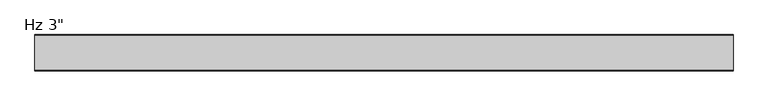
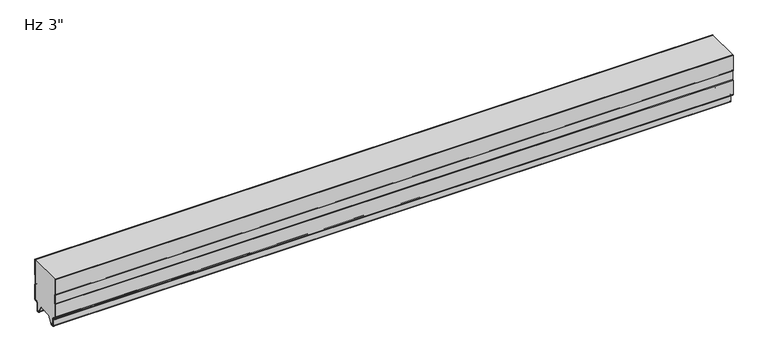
"""IFC4 building model written with IfcOpenShell, lengths in millimetres: plate geometry."""

from ifc_helpers import new_model, si_unit, frame, origin, place, context, project, spatial, polyline, circle_curve, source, transform, mapped, element, save
from ifc_brep_helpers import plane_surface, cylinder_surface, revolved_surface, advanced_brep


def plate_06875e41(model_context):
    return source(origin(), model_context, "Body", "AdvancedBrep", [
        advanced_brep(
        [(-730.0, -1.0, 59.9218553), (-730.0, -1.0, 94.95), (-730.0, 0.0, 94.95), (-730.0, 0.0, 59.479416), (-730.0, -1.1911595, 58.4068912), (-730.0, -1.1911595, 39.5087751), (-730.0, 0.0, 38.4362503), (-730.0, 0.0, 5.8272193), (-730.0, -2.9772904, 2.8499526), (-730.0, -5.2691742, 2.8499526), (-730.0, -8.2464427, -0.1273159), (-730.0, -8.2464427, -15.7237419), (-730.0, -9.8343193, -17.3116185), (-730.0, -12.905868, -17.3116185), (-730.0, -14.4937445, -15.7237419), (-730.0, -14.4937445, -13.3687064), (-730.0, -13.4937445, -13.3687064), (-730.0, -13.4937445, -15.7237419), (-730.0, -12.905868, -16.3116185), (-730.0, -9.8343193, -16.3116185), (-730.0, -9.2464427, -15.7237419), (-730.0, -9.2464427, -0.1273159), (-730.0, -5.2691742, 3.8499526), (-730.0, -2.9772904, 3.8499526), (-730.0, -1.0000218, 5.82722), (-730.0, -1.0, 37.993811), (-730.0, -2.1911595, 39.0663358), (-730.0, -2.1911595, 58.8493305), (730.0, 0.0, 59.479416), (730.0, 0.0, 94.95), (730.0, -1.0, 94.95), (730.0, -1.0, 59.9218553), (730.0, -2.1911595, 58.8493305), (730.0, -2.1911595, 39.0663358), (730.0, -1.0, 37.993811), (730.0, -1.0, 5.82722), (730.0, -2.9772904, 3.8499526), (730.0, -5.2691742, 3.8499526), (730.0, -9.2464427, -0.1273159), (730.0, -9.2464427, -15.7237419), (730.0, -9.8343193, -16.3116185), (730.0, -12.905868, -16.3116185), (730.0, -13.4937445, -15.7237419), (730.0, -13.4937445, -13.3687064), (730.0, -14.4937445, -13.3687064), (730.0, -14.4937445, -15.7237419), (730.0, -12.905868, -17.3116185), (730.0, -9.8343193, -17.3116185), (730.0, -8.2464427, -15.7237419), (730.0, -8.2464427, -0.1273159), (730.0, -5.2691742, 2.8499526), (730.0, -2.9772904, 2.8499526), (730.0, -2.18e-05, 5.8272193), (730.0, 0.0, 38.4362503), (730.0, -1.1911595, 39.5087751), (730.0, -1.1911595, 58.4068912)],
        [
            (0, 1),
            (1, 2),
            (2, 3),
            (3, 4),
            (4, 5),
            (5, 6),
            (6, 7),
            (7, 8, circle_curve(frame((-730.0, -2.9772904, 5.8272211), z_axis=(-1.0, 0.0, 0.0), x_axis=(0.0, 1.0, 0.0)), 2.9772685)),
            (8, 9),
            (9, 10, circle_curve(frame((-730.0, -5.2691742, -0.1273159), z_axis=(1.0, 0.0, 0.0), x_axis=(0.0, 1.0, 0.0)), 2.9772685)),
            (10, 11),
            (11, 12, circle_curve(frame((-730.0, -9.8343193, -15.7237419), z_axis=(-1.0, 0.0, 0.0), x_axis=(0.0, 1.0, 0.0)), 1.5878765)),
            (12, 13),
            (13, 14, circle_curve(frame((-730.0, -12.905868, -15.7237419), z_axis=(-1.0, 0.0, 0.0), x_axis=(0.0, 1.0, 0.0)), 1.5878765)),
            (14, 15),
            (15, 16),
            (16, 17),
            (17, 18, circle_curve(frame((-730.0, -12.905868, -15.7237419), z_axis=(1.0, 0.0, 0.0), x_axis=(0.0, 1.0, 0.0)), 0.5878765)),
            (18, 19),
            (19, 20, circle_curve(frame((-730.0, -9.8343193, -15.7237419), z_axis=(1.0, 0.0, 0.0), x_axis=(0.0, 1.0, 0.0)), 0.5878765)),
            (20, 21),
            (21, 22, circle_curve(frame((-730.0, -5.2691742, -0.1273159), z_axis=(-1.0, 0.0, 0.0), x_axis=(0.0, 1.0, 0.0)), 3.9772685)),
            (22, 23),
            (23, 24, circle_curve(frame((-730.0, -2.9772904, 5.8272212), z_axis=(1.0, 0.0, 0.0), x_axis=(0.0, 1.0, 0.0)), 1.9772685)),
            (24, 25),
            (25, 26),
            (26, 27),
            (27, 0),
            (28, 29),
            (29, 30),
            (30, 31),
            (31, 32),
            (32, 33),
            (33, 34),
            (34, 35),
            (35, 36, circle_curve(frame((730.0, -2.9772904, 5.8272212), z_axis=(-1.0, 0.0, 0.0), x_axis=(0.0, 1.0, 0.0)), 1.9772685)),
            (36, 37),
            (37, 38, circle_curve(frame((730.0, -5.2691742, -0.1273159), z_axis=(1.0, 0.0, 0.0), x_axis=(0.0, 1.0, 0.0)), 3.9772685)),
            (38, 39),
            (39, 40, circle_curve(frame((730.0, -9.8343193, -15.7237419), z_axis=(-1.0, 0.0, 0.0), x_axis=(0.0, 1.0, 0.0)), 0.5878765)),
            (40, 41),
            (41, 42, circle_curve(frame((730.0, -12.905868, -15.7237419), z_axis=(-1.0, 0.0, 0.0), x_axis=(0.0, 1.0, 0.0)), 0.5878765)),
            (42, 43),
            (43, 44),
            (44, 45),
            (45, 46, circle_curve(frame((730.0, -12.905868, -15.7237419), z_axis=(1.0, 0.0, 0.0), x_axis=(0.0, 1.0, 0.0)), 1.5878765)),
            (46, 47),
            (47, 48, circle_curve(frame((730.0, -9.8343193, -15.7237419), z_axis=(1.0, 0.0, 0.0), x_axis=(0.0, 1.0, 0.0)), 1.5878765)),
            (48, 49),
            (49, 50, circle_curve(frame((730.0, -5.2691742, -0.1273159), z_axis=(-1.0, 0.0, 0.0), x_axis=(0.0, 1.0, 0.0)), 2.9772685)),
            (50, 51),
            (51, 52, circle_curve(frame((730.0, -2.9772904, 5.8272211), z_axis=(1.0, 0.0, 0.0), x_axis=(0.0, 1.0, 0.0)), 2.9772685)),
            (52, 53),
            (53, 54),
            (54, 55),
            (55, 28),
            (30, 1),
            (0, 31),
            (27, 32),
            (26, 33),
            (25, 34),
            (24, 35),
            (23, 36),
            (22, 37),
            (21, 38),
            (20, 39),
            (19, 40),
            (18, 41),
            (17, 42),
            (16, 43),
            (15, 44),
            (14, 45),
            (13, 46),
            (12, 47),
            (11, 48),
            (10, 49),
            (9, 50),
            (8, 51),
            (7, 52),
            (6, 53),
            (5, 54),
            (4, 55),
            (3, 28),
            (2, 29),
        ],
        [
            plane_surface(frame((-730.0, 0.0, 576.2625), z_axis=(-1.0, 0.0, 0.0), x_axis=(0.0, 1.0, 0.0))),
            plane_surface(frame((730.0, 0.0, 576.2625), z_axis=(1.0, 0.0, 0.0), x_axis=(0.0, 1.0, 0.0))),
            plane_surface(frame((-730.0, -1.0, 113.6164312), z_axis=(0.0, -1.0, 0.0), x_axis=(1.0, 0.0, 0.0))),
            plane_surface(frame((-730.0, -1.0, 59.9218553), z_axis=(0.0, -0.6691306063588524, 0.7431448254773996), x_axis=(1.0, 0.0, 0.0))),
            plane_surface(frame((-730.0, -2.1911595, 58.8493305), z_axis=(0.0, -1.0, 0.0), x_axis=(1.0, 0.0, 0.0))),
            plane_surface(frame((-730.0, -2.1911595, 39.0663358), z_axis=(0.0, -0.6691306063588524, -0.7431448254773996), x_axis=(1.0, 0.0, 0.0))),
            plane_surface(frame((-730.0, -1.0, 37.993811), z_axis=(0.0, -1.0, 0.0), x_axis=(1.0, 0.0, 0.0))),
            revolved_surface(polyline([(730.0, -1.0000218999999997, 5.8272212), (-730.0, -1.0000218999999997, 5.8272212)]), (-730.0, -2.9772904, 5.8272212), (1.0, 0.0, 0.0)),
            plane_surface(frame((-730.0, -2.9772904, 3.8499526), z_axis=(0.0, 0.0, 1.0), x_axis=(1.0, 0.0, 0.0))),
            cylinder_surface(frame((-730.0, -5.2691742, -0.1273159), z_axis=(-1.0, 0.0, 0.0), x_axis=(0.0, 1.0, 0.0)), 3.9772685),
            plane_surface(frame((-730.0, -9.2464427, -0.1273159), z_axis=(0.0, -1.0, 0.0), x_axis=(1.0, 0.0, 0.0))),
            revolved_surface(polyline([(730.0, -9.2464428, -15.7237419), (-730.0, -9.2464428, -15.7237419)]), (-730.0, -9.8343193, -15.7237419), (1.0, 0.0, 0.0)),
            plane_surface(frame((-730.0, -9.8343193, -16.3116185), z_axis=(0.0, 0.0, 1.0), x_axis=(1.0, 0.0, 0.0))),
            revolved_surface(polyline([(730.0, -12.3179915, -15.7237419), (-730.0, -12.3179915, -15.7237419)]), (-730.0, -12.905868, -15.7237419), (1.0, 0.0, 0.0)),
            plane_surface(frame((-730.0, -13.4937445, -15.7237419), z_axis=(0.0, 1.0, 0.0), x_axis=(1.0, 0.0, 0.0))),
            plane_surface(frame((-730.0, -13.4937445, -13.3687064), z_axis=(0.0, 0.0, 1.0), x_axis=(1.0, 0.0, 0.0))),
            plane_surface(frame((-730.0, -14.4937445, -13.3687064), z_axis=(0.0, -1.0, 0.0), x_axis=(1.0, 0.0, 0.0))),
            cylinder_surface(frame((-730.0, -12.905868, -15.7237419), z_axis=(-1.0, 0.0, 0.0), x_axis=(0.0, 1.0, 0.0)), 1.5878765),
            plane_surface(frame((-730.0, -12.905868, -17.3116185), z_axis=(0.0, 0.0, -1.0), x_axis=(1.0, 0.0, 0.0))),
            cylinder_surface(frame((-730.0, -9.8343193, -15.7237419), z_axis=(-1.0, 0.0, 0.0), x_axis=(0.0, 1.0, 0.0)), 1.5878765),
            plane_surface(frame((-730.0, -8.2464427, -15.7237419), z_axis=(0.0, 1.0, 0.0), x_axis=(1.0, 0.0, 0.0))),
            revolved_surface(polyline([(730.0, -2.2919057, -0.1273159), (-730.0, -2.2919057, -0.1273159)]), (-730.0, -5.2691742, -0.1273159), (1.0, 0.0, 0.0)),
            plane_surface(frame((-730.0, -5.2691742, 2.8499526), z_axis=(0.0, 0.0, -1.0), x_axis=(1.0, 0.0, 0.0))),
            cylinder_surface(frame((-730.0, -2.9772904, 5.8272211), z_axis=(-1.0, 0.0, 0.0), x_axis=(0.0, 1.0, 0.0)), 2.9772685),
            plane_surface(frame((-730.0, 0.0, 5.8272193), z_axis=(0.0, 1.0, 0.0), x_axis=(1.0, 0.0, 0.0))),
            plane_surface(frame((-730.0, 0.0, 38.4362503), z_axis=(0.0, 0.6691306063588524, 0.7431448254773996), x_axis=(1.0, 0.0, 0.0))),
            plane_surface(frame((-730.0, -1.1911595, 39.5087751), z_axis=(0.0, 1.0, 0.0), x_axis=(1.0, 0.0, 0.0))),
            plane_surface(frame((-730.0, -1.1911595, 58.4068912), z_axis=(0.0, 0.6691306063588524, -0.7431448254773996), x_axis=(1.0, 0.0, 0.0))),
            plane_surface(frame((-730.0, 0.0, 59.479416), z_axis=(0.0, 1.0, 0.0), x_axis=(1.0, 0.0, 0.0))),
            plane_surface(frame((730.0, 10.0, 94.95), z_axis=(0.0, 0.0, 1.0), x_axis=(-1.0, 0.0, 0.0))),
        ],
        [
            (0, [[1, 2, 3, 4, 5, 6, 7, 8, 9, 10, 11, 12, 13, 14, 15, 16, 17, 18, 19, 20, 21, 22, 23, 24, 25, 26, 27, 28]]),
            (1, [[29, 30, 31, 32, 33, 34, 35, 36, 37, 38, 39, 40, 41, 42, 43, 44, 45, 46, 47, 48, 49, 50, 51, 52, 53, 54, 55, 56]]),
            (2, [[-31, 57, -1, 58]]),
            (3, [[59, -32, -58, -28]]),
            (4, [[60, -33, -59, -27]]),
            (5, [[61, -34, -60, -26]]),
            (6, [[62, -35, -61, -25]]),
            (7, [[63, -36, -62, -24]]),
            (8, [[64, -37, -63, -23]]),
            (9, [[65, -38, -64, -22]]),
            (10, [[66, -39, -65, -21]]),
            (11, [[67, -40, -66, -20]]),
            (12, [[68, -41, -67, -19]]),
            (13, [[69, -42, -68, -18]]),
            (14, [[70, -43, -69, -17]]),
            (15, [[71, -44, -70, -16]]),
            (16, [[72, -45, -71, -15]]),
            (17, [[73, -46, -72, -14]]),
            (18, [[74, -47, -73, -13]]),
            (19, [[75, -48, -74, -12]]),
            (20, [[76, -49, -75, -11]]),
            (21, [[77, -50, -76, -10]]),
            (22, [[78, -51, -77, -9]]),
            (23, [[79, -52, -78, -8]]),
            (24, [[80, -53, -79, -7]]),
            (25, [[81, -54, -80, -6]]),
            (26, [[82, -55, -81, -5]]),
            (27, [[83, -56, -82, -4]]),
            (28, [[-3, 84, -29, -83]]),
            (29, [[-57, -30, -84, -2]]),
        ],
    ),
        advanced_brep(
        [(-730.0, -76.2, 59.479416), (-730.0, -76.2, 94.95), (-730.0, -75.2, 94.95), (-730.0, -75.2, 59.9218553), (-730.0, -74.0088405, 58.8493305), (-730.0, -74.0088405, 39.0663358), (-730.0, -75.2, 37.993811), (-730.0, -75.2, 5.82722), (-730.0, -73.2227096, 3.8499526), (-730.0, -70.9308258, 3.8499526), (-730.0, -66.9535573, -0.1273159), (-730.0, -66.9535573, -15.7237419), (-730.0, -66.3656807, -16.3116185), (-730.0, -63.294132, -16.3116185), (-730.0, -62.7062555, -15.7237419), (-730.0, -62.7062555, -13.3687064), (-730.0, -61.7062555, -13.3687064), (-730.0, -61.7062555, -15.7237419), (-730.0, -63.294132, -17.3116185), (-730.0, -66.3656807, -17.3116185), (-730.0, -67.9535573, -15.7237419), (-730.0, -67.9535573, -0.1273159), (-730.0, -70.9308258, 2.8499526), (-730.0, -73.2227096, 2.8499526), (-730.0, -76.1999782, 5.8272193), (-730.0, -76.2, 38.4362503), (-730.0, -75.0088405, 39.5087751), (-730.0, -75.0088405, 58.4068912), (730.0, -75.2, 59.9218553), (730.0, -75.2, 94.95), (730.0, -76.2, 94.95), (730.0, -76.2, 59.479416), (730.0, -75.0088405, 58.4068912), (730.0, -75.0088405, 39.5087751), (730.0, -76.2, 38.4362503), (730.0, -76.2, 5.8272193), (730.0, -73.2227096, 2.8499526), (730.0, -70.9308258, 2.8499526), (730.0, -67.9535573, -0.1273159), (730.0, -67.9535573, -15.7237419), (730.0, -66.3656807, -17.3116185), (730.0, -63.294132, -17.3116185), (730.0, -61.7062555, -15.7237419), (730.0, -61.7062555, -13.3687064), (730.0, -62.7062555, -13.3687064), (730.0, -62.7062555, -15.7237419), (730.0, -63.294132, -16.3116185), (730.0, -66.3656807, -16.3116185), (730.0, -66.9535573, -15.7237419), (730.0, -66.9535573, -0.1273159), (730.0, -70.9308258, 3.8499526), (730.0, -73.2227096, 3.8499526), (730.0, -75.1999782, 5.82722), (730.0, -75.2, 37.993811), (730.0, -74.0088405, 39.0663358), (730.0, -74.0088405, 58.8493305)],
        [
            (0, 1),
            (1, 2),
            (2, 3),
            (3, 4),
            (4, 5),
            (5, 6),
            (6, 7),
            (7, 8, circle_curve(frame((-730.0, -73.2227096, 5.8272212), z_axis=(1.0, 0.0, 0.0), x_axis=(0.0, 0.0, -1.0)), 1.9772685)),
            (8, 9),
            (9, 10, circle_curve(frame((-730.0, -70.9308258, -0.1273159), z_axis=(-1.0, 0.0, 0.0), x_axis=(0.0, 0.0, -1.0)), 3.9772685)),
            (10, 11),
            (11, 12, circle_curve(frame((-730.0, -66.3656807, -15.7237419), z_axis=(1.0, 0.0, 0.0), x_axis=(0.0, 0.0, -1.0)), 0.5878765)),
            (12, 13),
            (13, 14, circle_curve(frame((-730.0, -63.294132, -15.7237419), z_axis=(1.0, 0.0, 0.0), x_axis=(0.0, 0.0, -1.0)), 0.5878765)),
            (14, 15),
            (15, 16),
            (16, 17),
            (17, 18, circle_curve(frame((-730.0, -63.294132, -15.7237419), z_axis=(-1.0, 0.0, 0.0), x_axis=(0.0, 0.0, -1.0)), 1.5878765)),
            (18, 19),
            (19, 20, circle_curve(frame((-730.0, -66.3656807, -15.7237419), z_axis=(-1.0, 0.0, 0.0), x_axis=(0.0, 0.0, -1.0)), 1.5878765)),
            (20, 21),
            (21, 22, circle_curve(frame((-730.0, -70.9308258, -0.1273159), z_axis=(1.0, 0.0, 0.0), x_axis=(0.0, 0.0, -1.0)), 2.9772685)),
            (22, 23),
            (23, 24, circle_curve(frame((-730.0, -73.2227096, 5.8272211), z_axis=(-1.0, 0.0, 0.0), x_axis=(0.0, 0.0, -1.0)), 2.9772685)),
            (24, 25),
            (25, 26),
            (26, 27),
            (27, 0),
            (28, 29),
            (29, 30),
            (30, 31),
            (31, 32),
            (32, 33),
            (33, 34),
            (34, 35),
            (35, 36, circle_curve(frame((730.0, -73.2227096, 5.8272211), z_axis=(1.0, 0.0, 0.0), x_axis=(0.0, 0.0, -1.0)), 2.9772685)),
            (36, 37),
            (37, 38, circle_curve(frame((730.0, -70.9308258, -0.1273159), z_axis=(-1.0, 0.0, 0.0), x_axis=(0.0, 0.0, -1.0)), 2.9772685)),
            (38, 39),
            (39, 40, circle_curve(frame((730.0, -66.3656807, -15.7237419), z_axis=(1.0, 0.0, 0.0), x_axis=(0.0, 0.0, -1.0)), 1.5878765)),
            (40, 41),
            (41, 42, circle_curve(frame((730.0, -63.294132, -15.7237419), z_axis=(1.0, 0.0, 0.0), x_axis=(0.0, 0.0, -1.0)), 1.5878765)),
            (42, 43),
            (43, 44),
            (44, 45),
            (45, 46, circle_curve(frame((730.0, -63.294132, -15.7237419), z_axis=(-1.0, 0.0, 0.0), x_axis=(0.0, 0.0, -1.0)), 0.5878765)),
            (46, 47),
            (47, 48, circle_curve(frame((730.0, -66.3656807, -15.7237419), z_axis=(-1.0, 0.0, 0.0), x_axis=(0.0, 0.0, -1.0)), 0.5878765)),
            (48, 49),
            (49, 50, circle_curve(frame((730.0, -70.9308258, -0.1273159), z_axis=(1.0, 0.0, 0.0), x_axis=(0.0, 0.0, -1.0)), 3.9772685)),
            (50, 51),
            (51, 52, circle_curve(frame((730.0, -73.2227096, 5.8272212), z_axis=(-1.0, 0.0, 0.0), x_axis=(0.0, 0.0, -1.0)), 1.9772685)),
            (52, 53),
            (53, 54),
            (54, 55),
            (55, 28),
            (1, 30),
            (29, 2),
            (0, 31),
            (27, 32),
            (26, 33),
            (25, 34),
            (24, 35),
            (23, 36),
            (22, 37),
            (21, 38),
            (20, 39),
            (19, 40),
            (18, 41),
            (17, 42),
            (16, 43),
            (15, 44),
            (14, 45),
            (13, 46),
            (12, 47),
            (11, 48),
            (10, 49),
            (9, 50),
            (8, 51),
            (7, 52),
            (6, 53),
            (5, 54),
            (4, 55),
            (3, 28),
        ],
        [
            plane_surface(frame((-730.0, -76.2, 576.2625), z_axis=(-1.0, 0.0, 0.0), x_axis=(0.0, -1.0, 0.0))),
            plane_surface(frame((730.0, -76.2, 576.2625), z_axis=(1.0, 0.0, 0.0), x_axis=(0.0, -1.0, 0.0))),
            plane_surface(frame((730.0, 10.0, 94.95), z_axis=(0.0, 0.0, 1.0), x_axis=(-1.0, 0.0, 0.0))),
            plane_surface(frame((-730.0, -76.2, 114.0588705), z_axis=(0.0, -1.0, 0.0), x_axis=(1.0, 0.0, 0.0))),
            plane_surface(frame((-730.0, -76.2, 59.479416), z_axis=(0.0, -0.6691306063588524, -0.7431448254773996), x_axis=(1.0, 0.0, 0.0))),
            plane_surface(frame((-730.0, -75.0088405, 58.4068912), z_axis=(0.0, -1.0, 0.0), x_axis=(1.0, 0.0, 0.0))),
            plane_surface(frame((-730.0, -75.0088405, 39.5087751), z_axis=(0.0, -0.6691306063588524, 0.7431448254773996), x_axis=(1.0, 0.0, 0.0))),
            plane_surface(frame((-730.0, -76.2, 38.4362503), z_axis=(0.0, -1.0, 0.0), x_axis=(1.0, 0.0, 0.0))),
            cylinder_surface(frame((-730.0, -73.2227096, 5.8272211), z_axis=(-1.0, 0.0, 0.0), x_axis=(0.0, 0.0, -1.0)), 2.9772685),
            plane_surface(frame((-730.0, -73.2227096, 2.8499526), z_axis=(0.0, 0.0, -1.0), x_axis=(1.0, 0.0, 0.0))),
            revolved_surface(polyline([(730.0, -70.9308258, -3.1045844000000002), (-730.0, -70.9308258, -3.1045844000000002)]), (-730.0, -70.9308258, -0.1273159), (1.0, 0.0, 0.0)),
            plane_surface(frame((-730.0, -67.9535573, -0.1273159), z_axis=(0.0, -1.0, 0.0), x_axis=(1.0, 0.0, 0.0))),
            cylinder_surface(frame((-730.0, -66.3656807, -15.7237419), z_axis=(-1.0, 0.0, 0.0), x_axis=(0.0, 0.0, -1.0)), 1.5878765),
            plane_surface(frame((-730.0, -66.3656807, -17.3116185), z_axis=(0.0, 0.0, -1.0), x_axis=(1.0, 0.0, 0.0))),
            cylinder_surface(frame((-730.0, -63.294132, -15.7237419), z_axis=(-1.0, 0.0, 0.0), x_axis=(0.0, 0.0, -1.0)), 1.5878765),
            plane_surface(frame((-730.0, -61.7062555, -15.7237419), z_axis=(0.0, 1.0, 0.0), x_axis=(1.0, 0.0, 0.0))),
            plane_surface(frame((-730.0, -61.7062555, -13.3687064), z_axis=(0.0, 0.0, 1.0), x_axis=(1.0, 0.0, 0.0))),
            plane_surface(frame((-730.0, -62.7062555, -13.3687064), z_axis=(0.0, -1.0, 0.0), x_axis=(1.0, 0.0, 0.0))),
            revolved_surface(polyline([(730.0, -63.294132, -16.3116184), (-730.0, -63.294132, -16.3116184)]), (-730.0, -63.294132, -15.7237419), (1.0, 0.0, 0.0)),
            plane_surface(frame((-730.0, -63.294132, -16.3116185), z_axis=(0.0, 0.0, 1.0), x_axis=(1.0, 0.0, 0.0))),
            revolved_surface(polyline([(730.0, -66.3656807, -16.3116184), (-730.0, -66.3656807, -16.3116184)]), (-730.0, -66.3656807, -15.7237419), (1.0, 0.0, 0.0)),
            plane_surface(frame((-730.0, -66.9535573, -15.7237419), z_axis=(0.0, 1.0, 0.0), x_axis=(1.0, 0.0, 0.0))),
            cylinder_surface(frame((-730.0, -70.9308258, -0.1273159), z_axis=(-1.0, 0.0, 0.0), x_axis=(0.0, 0.0, -1.0)), 3.9772685),
            plane_surface(frame((-730.0, -70.9308258, 3.8499526), z_axis=(0.0, 0.0, 1.0), x_axis=(1.0, 0.0, 0.0))),
            revolved_surface(polyline([(730.0, -73.2227096, 3.8499527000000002), (-730.0, -73.2227096, 3.8499527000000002)]), (-730.0, -73.2227096, 5.8272212), (1.0, 0.0, 0.0)),
            plane_surface(frame((-730.0, -75.2, 5.82722), z_axis=(0.0, 1.0, 0.0), x_axis=(1.0, 0.0, 0.0))),
            plane_surface(frame((-730.0, -75.2, 37.993811), z_axis=(0.0, 0.6691306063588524, -0.7431448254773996), x_axis=(1.0, 0.0, 0.0))),
            plane_surface(frame((-730.0, -74.0088405, 39.0663358), z_axis=(0.0, 1.0, 0.0), x_axis=(1.0, 0.0, 0.0))),
            plane_surface(frame((-730.0, -74.0088405, 58.8493305), z_axis=(0.0, 0.6691306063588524, 0.7431448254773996), x_axis=(1.0, 0.0, 0.0))),
            plane_surface(frame((-730.0, -75.2, 59.9218553), z_axis=(0.0, 1.0, 0.0), x_axis=(1.0, 0.0, 0.0))),
        ],
        [
            (0, [[1, 2, 3, 4, 5, 6, 7, 8, 9, 10, 11, 12, 13, 14, 15, 16, 17, 18, 19, 20, 21, 22, 23, 24, 25, 26, 27, 28]]),
            (1, [[29, 30, 31, 32, 33, 34, 35, 36, 37, 38, 39, 40, 41, 42, 43, 44, 45, 46, 47, 48, 49, 50, 51, 52, 53, 54, 55, 56]]),
            (2, [[57, -30, 58, -2]]),
            (3, [[-31, -57, -1, 59]]),
            (4, [[60, -32, -59, -28]]),
            (5, [[61, -33, -60, -27]]),
            (6, [[62, -34, -61, -26]]),
            (7, [[63, -35, -62, -25]]),
            (8, [[64, -36, -63, -24]]),
            (9, [[65, -37, -64, -23]]),
            (10, [[66, -38, -65, -22]]),
            (11, [[67, -39, -66, -21]]),
            (12, [[68, -40, -67, -20]]),
            (13, [[69, -41, -68, -19]]),
            (14, [[70, -42, -69, -18]]),
            (15, [[71, -43, -70, -17]]),
            (16, [[72, -44, -71, -16]]),
            (17, [[73, -45, -72, -15]]),
            (18, [[74, -46, -73, -14]]),
            (19, [[75, -47, -74, -13]]),
            (20, [[76, -48, -75, -12]]),
            (21, [[77, -49, -76, -11]]),
            (22, [[78, -50, -77, -10]]),
            (23, [[79, -51, -78, -9]]),
            (24, [[80, -52, -79, -8]]),
            (25, [[81, -53, -80, -7]]),
            (26, [[82, -54, -81, -6]]),
            (27, [[83, -55, -82, -5]]),
            (28, [[84, -56, -83, -4]]),
            (29, [[-3, -58, -29, -84]]),
        ],
    ),
        advanced_brep(
        [(-730.0, -75.2, 59.9218553), (-730.0, -75.2, 94.95), (-730.0, -1.0, 94.95), (-730.0, -1.0, 59.9218553), (-730.0, -2.1911595, 58.8493305), (-730.0, -2.1911595, 39.0663358), (-730.0, -1.0000109, 37.993811), (-730.0, -1.0000109, 5.8272239), (-730.0, -2.9772849, 3.8499499), (-730.0, -5.2691749, 3.8499499), (-730.0, -9.246442, -0.1273173), (-730.0, -9.246442, -15.7237417), (-730.0, -9.8343189, -16.3116186), (-730.0, -12.9058679, -16.3116186), (-730.0, -13.4937446, -15.723742), (-730.0, -13.4937446, -13.3687064), (-730.0, -14.4937446, -13.3687064), (-730.0, -14.4937446, -15.6582851), (-730.0, -23.7509179, 0.0), (-730.0, -52.4490865, 0.0), (-730.0, -61.7062554, -15.6582851), (-730.0, -61.7062554, -13.3687064), (-730.0, -62.7062554, -13.3687064), (-730.0, -62.7062554, -15.723742), (-730.0, -63.2941321, -16.3116186), (-730.0, -66.3656811, -16.3116186), (-730.0, -66.953558, -15.7237417), (-730.0, -66.953558, -0.1273173), (-730.0, -70.9308251, 3.8499499), (-730.0, -73.2227151, 3.8499499), (-730.0, -75.1999891, 5.8272239), (-730.0, -75.1999891, 37.993811), (-730.0, -74.0088405, 39.0663358), (-730.0, -74.0088405, 58.8493305), (730.0, -52.4490865, 0.0), (730.0, -23.7509179, 0.0), (730.0, -14.4937446, -15.6582851), (730.0, -14.4937446, -13.3687064), (730.0, -13.4937446, -13.3687064), (730.0, -13.4937446, -15.723742), (730.0, -12.9058679, -16.3116186), (730.0, -9.8343189, -16.3116186), (730.0, -9.246442, -15.7237417), (730.0, -9.246442, -0.1273173), (730.0, -5.2691749, 3.8499499), (730.0, -2.9772849, 3.8499499), (730.0, -1.0000109, 5.8272239), (730.0, -1.0000109, 37.993811), (730.0, -2.1911595, 39.0663358), (730.0, -2.1911595, 58.8493305), (730.0, -1.0, 59.9218553), (730.0, -1.0, 94.95), (730.0, -75.2, 94.95), (730.0, -75.2, 59.9218553), (730.0, -74.0088405, 58.8493305), (730.0, -74.0088405, 39.0663358), (730.0, -75.1999891, 37.993811), (730.0, -75.1999891, 5.8272239), (730.0, -73.2227151, 3.8499499), (730.0, -70.9308251, 3.8499499), (730.0, -66.953558, -0.1273173), (730.0, -66.953558, -15.7237417), (730.0, -66.3656811, -16.3116186), (730.0, -63.2941321, -16.3116186), (730.0, -62.7062554, -15.723742), (730.0, -62.7062554, -13.3687064), (730.0, -61.7062554, -13.3687064), (730.0, -61.7062554, -15.6582851)],
        [
            (0, 1),
            (1, 2),
            (2, 3),
            (3, 4),
            (4, 5),
            (5, 6),
            (6, 7),
            (7, 8, circle_curve(frame((-730.0, -2.9772849, 5.8272239), z_axis=(-1.0, 0.0, 0.0), x_axis=(0.0, 1.0, 0.0)), 1.977274)),
            (8, 9),
            (9, 10, circle_curve(frame((-730.0, -5.2691749, -0.1273173), z_axis=(1.0, 0.0, 0.0), x_axis=(0.0, 1.0, 0.0)), 3.9772671)),
            (10, 11),
            (11, 12, circle_curve(frame((-730.0, -9.8343189, -15.7237417), z_axis=(-1.0, 0.0, 0.0), x_axis=(0.0, 1.0, 0.0)), 0.5878769)),
            (12, 13),
            (13, 14, circle_curve(frame((-730.0, -12.9058679, -15.723742), z_axis=(-1.0, 0.0, 0.0), x_axis=(0.0, 1.0, 0.0)), 0.5878766)),
            (14, 15),
            (15, 16),
            (16, 17),
            (17, 18),
            (18, 19),
            (19, 20),
            (20, 21),
            (21, 22),
            (22, 23),
            (23, 24, circle_curve(frame((-730.0, -63.2941321, -15.723742), z_axis=(-1.0, 0.0, 0.0), x_axis=(0.0, 0.0, -1.0)), 0.5878766)),
            (24, 25),
            (25, 26, circle_curve(frame((-730.0, -66.3656811, -15.7237417), z_axis=(-1.0, 0.0, 0.0), x_axis=(0.0, 0.0, -1.0)), 0.5878769)),
            (26, 27),
            (27, 28, circle_curve(frame((-730.0, -70.9308251, -0.1273173), z_axis=(1.0, 0.0, 0.0), x_axis=(0.0, 0.0, -1.0)), 3.9772671)),
            (28, 29),
            (29, 30, circle_curve(frame((-730.0, -73.2227151, 5.8272239), z_axis=(-1.0, 0.0, 0.0), x_axis=(0.0, 0.0, -1.0)), 1.977274)),
            (30, 31),
            (31, 32),
            (32, 33),
            (33, 0),
            (34, 35),
            (35, 36),
            (36, 37),
            (37, 38),
            (38, 39),
            (39, 40, circle_curve(frame((730.0, -12.9058679, -15.723742), z_axis=(1.0, 0.0, 0.0), x_axis=(0.0, 1.0, 0.0)), 0.5878766)),
            (40, 41),
            (41, 42, circle_curve(frame((730.0, -9.8343189, -15.7237417), z_axis=(1.0, 0.0, 0.0), x_axis=(0.0, 1.0, 0.0)), 0.5878769)),
            (42, 43),
            (43, 44, circle_curve(frame((730.0, -5.2691749, -0.1273173), z_axis=(-1.0, 0.0, 0.0), x_axis=(0.0, 1.0, 0.0)), 3.9772671)),
            (44, 45),
            (45, 46, circle_curve(frame((730.0, -2.9772849, 5.8272239), z_axis=(1.0, 0.0, 0.0), x_axis=(0.0, 1.0, 0.0)), 1.977274)),
            (46, 47),
            (47, 48),
            (48, 49),
            (49, 50),
            (50, 51),
            (51, 52),
            (52, 53),
            (53, 54),
            (54, 55),
            (55, 56),
            (56, 57),
            (57, 58, circle_curve(frame((730.0, -73.2227151, 5.8272239), z_axis=(1.0, 0.0, 0.0), x_axis=(0.0, 0.0, -1.0)), 1.977274)),
            (58, 59),
            (59, 60, circle_curve(frame((730.0, -70.9308251, -0.1273173), z_axis=(-1.0, 0.0, 0.0), x_axis=(0.0, 0.0, -1.0)), 3.9772671)),
            (60, 61),
            (61, 62, circle_curve(frame((730.0, -66.3656811, -15.7237417), z_axis=(1.0, 0.0, 0.0), x_axis=(0.0, 0.0, -1.0)), 0.5878769)),
            (62, 63),
            (63, 64, circle_curve(frame((730.0, -63.2941321, -15.723742), z_axis=(1.0, 0.0, 0.0), x_axis=(0.0, 0.0, -1.0)), 0.5878766)),
            (64, 65),
            (65, 66),
            (66, 67),
            (67, 34),
            (17, 36),
            (35, 18),
            (16, 37),
            (15, 38),
            (14, 39),
            (13, 40),
            (12, 41),
            (11, 42),
            (10, 43),
            (9, 44),
            (8, 45),
            (7, 46),
            (6, 47),
            (5, 48),
            (4, 49),
            (3, 50),
            (2, 51),
            (34, 19),
            (1, 52),
            (0, 53),
            (33, 54),
            (32, 55),
            (31, 56),
            (30, 57),
            (29, 58),
            (28, 59),
            (27, 60),
            (26, 61),
            (25, 62),
            (24, 63),
            (23, 64),
            (22, 65),
            (21, 66),
            (20, 67),
        ],
        [
            plane_surface(frame((-730.0, -75.2, 576.2625), z_axis=(-1.0, 0.0, 0.0), x_axis=(0.0, -1.0, 0.0))),
            plane_surface(frame((730.0, -75.2, 576.2625), z_axis=(1.0, 0.0, 0.0), x_axis=(0.0, -1.0, 0.0))),
            plane_surface(frame((-730.0, -23.7509179, 0.0), z_axis=(0.0, -0.8608169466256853, -0.5089147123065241), x_axis=(1.0, 0.0, 0.0))),
            plane_surface(frame((-730.0, -14.4937446, -15.6582851), z_axis=(0.0, 1.0, 0.0), x_axis=(1.0, 0.0, 0.0))),
            plane_surface(frame((-730.0, -14.4937446, -13.3687064), z_axis=(0.0, 0.0, -1.0), x_axis=(1.0, 0.0, 0.0))),
            plane_surface(frame((-730.0, -13.4937446, -13.3687064), z_axis=(0.0, -1.0, 0.0), x_axis=(1.0, 0.0, 0.0))),
            cylinder_surface(frame((-730.0, -12.9058679, -15.723742), z_axis=(-1.0, 0.0, 0.0), x_axis=(0.0, 1.0, 0.0)), 0.5878766),
            plane_surface(frame((-730.0, -12.9058679, -16.3116186), z_axis=(0.0, 0.0, -1.0), x_axis=(1.0, 0.0, 0.0))),
            cylinder_surface(frame((-730.0, -9.8343189, -15.7237417), z_axis=(-1.0, 0.0, 0.0), x_axis=(0.0, 1.0, 0.0)), 0.5878769),
            plane_surface(frame((-730.0, -9.246442, -15.7237417), z_axis=(0.0, 1.0, 0.0), x_axis=(1.0, 0.0, 0.0))),
            revolved_surface(polyline([(730.0, -1.2919078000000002, -0.1273173), (-730.0, -1.2919078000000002, -0.1273173)]), (-730.0, -5.2691749, -0.1273173), (1.0, 0.0, 0.0)),
            plane_surface(frame((-730.0, -5.2691749, 3.8499499), z_axis=(0.0, 0.0, -1.0), x_axis=(1.0, 0.0, 0.0))),
            cylinder_surface(frame((-730.0, -2.9772849, 5.8272239), z_axis=(-1.0, 0.0, 0.0), x_axis=(0.0, 1.0, 0.0)), 1.977274),
            plane_surface(frame((-730.0, -1.0000109, 5.8272239), z_axis=(0.0, 1.0, 0.0), x_axis=(1.0, 0.0, 0.0))),
            plane_surface(frame((-730.0, -1.0000109, 37.993811), z_axis=(0.0, 0.6691339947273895, 0.7431417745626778), x_axis=(1.0, 0.0, 0.0))),
            plane_surface(frame((-730.0, -2.1911595, 39.0663358), z_axis=(0.0, 1.0, 0.0), x_axis=(1.0, 0.0, 0.0))),
            plane_surface(frame((-730.0, -2.1911595, 58.8493305), z_axis=(0.0, 0.6691306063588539, -0.7431448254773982), x_axis=(1.0, 0.0, 0.0))),
            plane_surface(frame((-730.0, -1.0, 59.9218553), z_axis=(0.0, 1.0, 0.0), x_axis=(1.0, 0.0, 0.0))),
            plane_surface(frame((-730.0, -52.4490865, 0.0), z_axis=(0.0, 0.0, -1.0), x_axis=(1.0, 0.0, 0.0))),
            plane_surface(frame((730.0, 10.0, 94.95), z_axis=(0.0, 0.0, 1.0), x_axis=(-1.0, 0.0, 0.0))),
            plane_surface(frame((-730.0, -75.2, 113.6164312), z_axis=(0.0, -1.0, 0.0), x_axis=(1.0, 0.0, 0.0))),
            plane_surface(frame((-730.0, -75.2, 59.9218553), z_axis=(0.0, -0.6691306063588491, -0.7431448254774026), x_axis=(1.0, 0.0, 0.0))),
            plane_surface(frame((-730.0, -74.0088405, 58.8493305), z_axis=(0.0, -1.0, 0.0), x_axis=(1.0, 0.0, 0.0))),
            plane_surface(frame((-730.0, -74.0088405, 39.0663358), z_axis=(0.0, -0.6691339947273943, 0.7431417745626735), x_axis=(1.0, 0.0, 0.0))),
            plane_surface(frame((-730.0, -75.1999891, 37.993811), z_axis=(0.0, -1.0, 0.0), x_axis=(1.0, 0.0, 0.0))),
            cylinder_surface(frame((-730.0, -73.2227151, 5.8272239), z_axis=(-1.0, 0.0, 0.0), x_axis=(0.0, 0.0, -1.0)), 1.977274),
            plane_surface(frame((-730.0, -73.2227151, 3.8499499), z_axis=(0.0, 0.0, -1.0), x_axis=(1.0, 0.0, 0.0))),
            revolved_surface(polyline([(730.0, -70.9308251, -4.1045844), (-730.0, -70.9308251, -4.1045844)]), (-730.0, -70.9308251, -0.1273173), (1.0, 0.0, 0.0)),
            plane_surface(frame((-730.0, -66.953558, -0.1273173), z_axis=(0.0, -1.0, 0.0), x_axis=(1.0, 0.0, 0.0))),
            cylinder_surface(frame((-730.0, -66.3656811, -15.7237417), z_axis=(-1.0, 0.0, 0.0), x_axis=(0.0, 0.0, -1.0)), 0.5878769),
            plane_surface(frame((-730.0, -66.3656811, -16.3116186), z_axis=(0.0, 0.0, -1.0), x_axis=(1.0, 0.0, 0.0))),
            cylinder_surface(frame((-730.0, -63.2941321, -15.723742), z_axis=(-1.0, 0.0, 0.0), x_axis=(0.0, 0.0, -1.0)), 0.5878766),
            plane_surface(frame((-730.0, -62.7062554, -15.723742), z_axis=(0.0, 1.0, 0.0), x_axis=(1.0, 0.0, 0.0))),
            plane_surface(frame((-730.0, -62.7062554, -13.3687064), z_axis=(0.0, 0.0, -1.0), x_axis=(1.0, 0.0, 0.0))),
            plane_surface(frame((-730.0, -61.7062554, -13.3687064), z_axis=(0.0, -1.0, 0.0), x_axis=(1.0, 0.0, 0.0))),
            plane_surface(frame((-730.0, -61.7062554, -15.6582851), z_axis=(0.0, 0.8608169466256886, -0.5089147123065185), x_axis=(1.0, 0.0, 0.0))),
        ],
        [
            (0, [[1, 2, 3, 4, 5, 6, 7, 8, 9, 10, 11, 12, 13, 14, 15, 16, 17, 18, 19, 20, 21, 22, 23, 24, 25, 26, 27, 28, 29, 30, 31, 32, 33, 34]]),
            (1, [[35, 36, 37, 38, 39, 40, 41, 42, 43, 44, 45, 46, 47, 48, 49, 50, 51, 52, 53, 54, 55, 56, 57, 58, 59, 60, 61, 62, 63, 64, 65, 66, 67, 68]]),
            (2, [[69, -36, 70, -18]]),
            (3, [[71, -37, -69, -17]]),
            (4, [[72, -38, -71, -16]]),
            (5, [[73, -39, -72, -15]]),
            (6, [[74, -40, -73, -14]]),
            (7, [[75, -41, -74, -13]]),
            (8, [[76, -42, -75, -12]]),
            (9, [[77, -43, -76, -11]]),
            (10, [[78, -44, -77, -10]]),
            (11, [[79, -45, -78, -9]]),
            (12, [[80, -46, -79, -8]]),
            (13, [[81, -47, -80, -7]]),
            (14, [[82, -48, -81, -6]]),
            (15, [[83, -49, -82, -5]]),
            (16, [[84, -50, -83, -4]]),
            (17, [[-3, 85, -51, -84]]),
            (18, [[86, -19, -70, -35]]),
            (19, [[87, -52, -85, -2]]),
            (20, [[-53, -87, -1, 88]]),
            (21, [[89, -54, -88, -34]]),
            (22, [[90, -55, -89, -33]]),
            (23, [[91, -56, -90, -32]]),
            (24, [[92, -57, -91, -31]]),
            (25, [[93, -58, -92, -30]]),
            (26, [[94, -59, -93, -29]]),
            (27, [[95, -60, -94, -28]]),
            (28, [[96, -61, -95, -27]]),
            (29, [[97, -62, -96, -26]]),
            (30, [[98, -63, -97, -25]]),
            (31, [[99, -64, -98, -24]]),
            (32, [[100, -65, -99, -23]]),
            (33, [[101, -66, -100, -22]]),
            (34, [[102, -67, -101, -21]]),
            (35, [[-86, -68, -102, -20]]),
        ],
    ),
    ])


if __name__ == "__main__":
    model = new_model("IFC4")
    model_context = context("Model", 3, world=origin())
    ifc_project = project(units=[si_unit("LENGTHUNIT", "METRE", prefix="MILLI")], contexts=[model_context])
    site = spatial("IfcSite", under=ifc_project)
    building = spatial("IfcBuilding", under=site)
    placement = place(None, origin())
    plate_shape = plate_06875e41(model_context)
    element("IfcPlate", 1, ObjectType="KIP-SLI-FLI-R19-CP-Hz-SL_SL : Hz 3\"", at=placement, inside=building, context=model_context, shape_type="MappedRepresentation", body=[
        mapped(plate_shape, transform((0.0, 0.0, 0.0), x_axis=(1.0, 0.0, 0.0), y_axis=(0.0, 1.0, 0.0), z_axis=(0.0, 0.0, 1.0))),
    ])
    save(model, "model.ifc")
